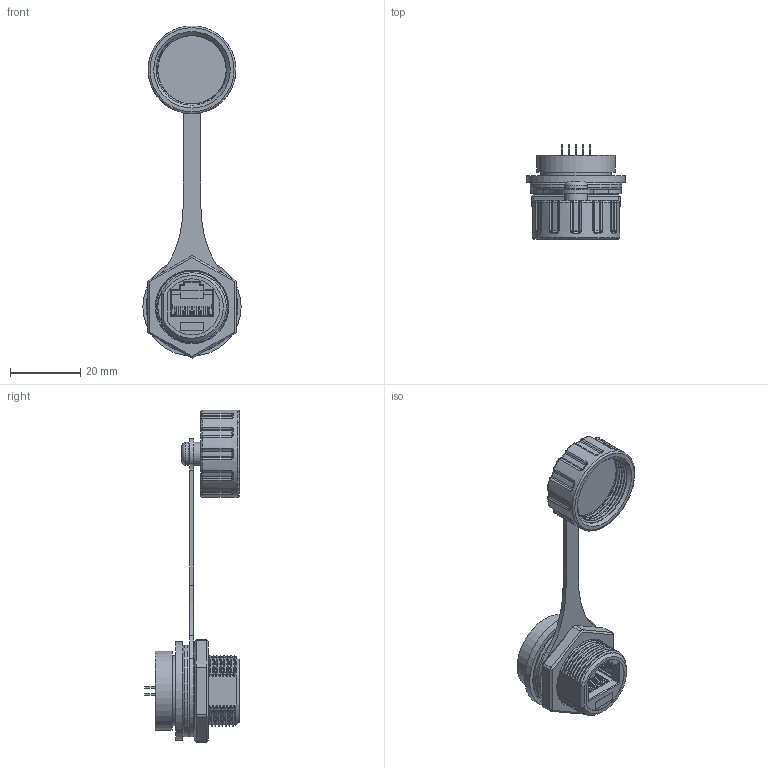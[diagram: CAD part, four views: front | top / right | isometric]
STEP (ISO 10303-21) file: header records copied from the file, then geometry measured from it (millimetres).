
FILE_DESCRIPTION(/* description */ (''),/* implementation_level */ '2;1');
FILE_NAME(/* name */ 'TMPMWRJ1003 外观3D.stp',/* time_stamp */ '2024-12-19T17:35:44+08:00',/* author */ (''),/* organization */ (''),/* preprocessor_version */ 'ST-DEVELOPER v16.7',/* originating_system */ 'SIEMENS PLM Software NX 12.0',/* authorisation */ '');
FILE_SCHEMA (('AP203_CONFIGURATION_CONTROLLED_3D_DESIGN_OF_MECHANICAL_PARTS_AND_ASSEMBLIES_MIM_LF { 1 0 10303 403 2 1 2}'));
Length unit declared in the file: millimetre
Products named in the file (1): admi051CE9ECpuwo
Bounding box: 28 x 27 x 94.65 mm (x, y, z)
Volume: 10898.7 mm3; surface area: 12839.3 mm2
Topology: 5 solids, 7 shells, 1444 faces, 3917 edges, 2485 vertices
Faces by surface type: plane 833, cylinder 253, bspline 147, torus 89, extrusion 82, sphere 24, cone 16
Full cylindrical faces by diameter (mm): 0.8 x10, 4 x1, 4.2 x1, 6.5 x2, 17.3 x1, 17.5 x2, 19.5 x2, 20 x2, 22.5 x1, 23.3 x2, 24.3 x2, 25 x1, 26.1 x1, 28 x1
Entity records: 82857 total; most frequent: CARTESIAN_POINT 47588, ORIENTED_EDGE 7652, DIRECTION 6569, EDGE_CURVE 3826, VECTOR 2705, LINE 2623, VERTEX_POINT 2470, AXIS2_PLACEMENT_3D 1932
